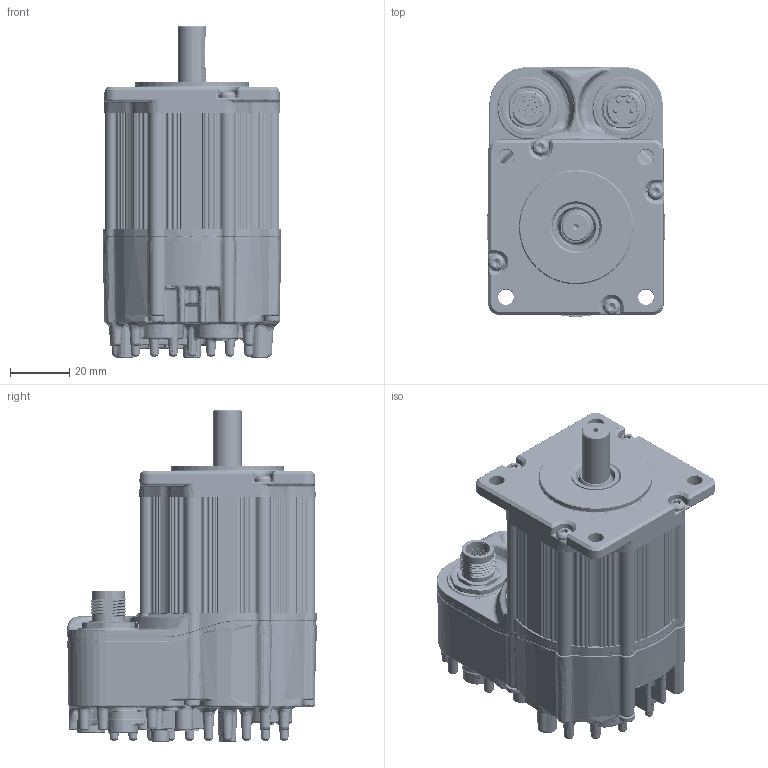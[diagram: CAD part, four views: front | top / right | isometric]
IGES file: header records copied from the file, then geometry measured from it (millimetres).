
Start section: SolidWorks IGES file using analytic representation for surfaces
Global section: file name: C:\TeknicPDM\EtherPath CPM-S\EtherPath CPM-S Customer Files\EC Customer Models\231x EC.IGS; native system: SolidWorks 2020; preprocessor: SolidWorks 2020; author: mike_berezny; date: 231213.164006; units: inch
Bounding box: 60.26 x 84.12 x 111.81 mm (x, y, z)
Surface area: 110946 mm2 (no closed solid volume)
Topology: 0 solids, 0 shells, 11895 faces, 107253 edges, 106565 vertices
Faces by surface type: bspline 6162, revolution 5733
